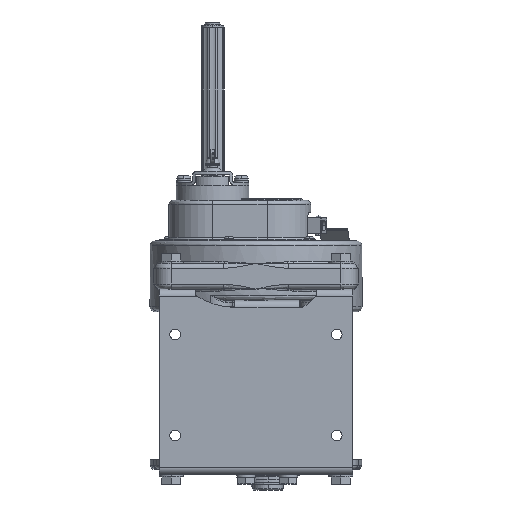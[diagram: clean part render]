
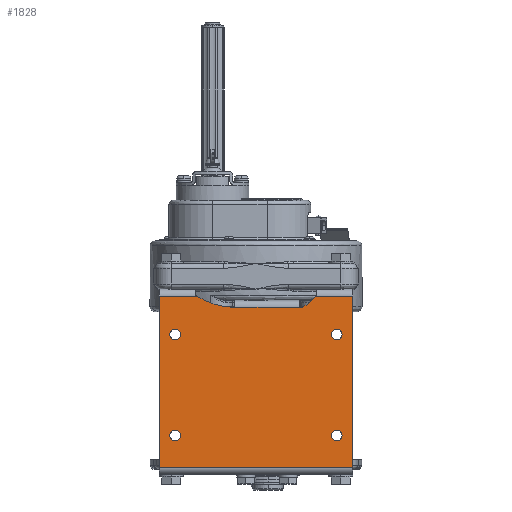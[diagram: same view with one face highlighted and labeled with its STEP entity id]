
A CAD part, front view. The second image highlights one B-rep face of the part: STEP entity #1828.
In plain terms, the highlighted planar face has unit normal (0, -1, 0).
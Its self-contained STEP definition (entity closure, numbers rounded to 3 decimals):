
#1828=ADVANCED_FACE('',(#19922,#19923,#19924,#19925,#19926),#19921,.T.);
#19921=PLANE('',#40189);
#19922=FACE_OUTER_BOUND('',#40190,.T.);
#19923=FACE_BOUND('',#40191,.T.);
#19924=FACE_BOUND('',#40192,.T.);
#19925=FACE_BOUND('',#40193,.T.);
#19926=FACE_BOUND('',#40194,.T.);
#40186=CARTESIAN_POINT('',(11.,-36.383,-212.1));
#40187=DIRECTION('',(0.,-1.,0.));
#40188=DIRECTION('',(0.,0.,1.));
#40189=AXIS2_PLACEMENT_3D('',#40186,#40187,#40188);
#40190=EDGE_LOOP('',(#56870,#56871,#56872,#56873,#56874,#56875,#56876,#56877,#56878,#56879));
#40191=EDGE_LOOP('',(#56880,#56881));
#40192=EDGE_LOOP('',(#56882,#56883));
#40193=EDGE_LOOP('',(#56884,#56885));
#40194=EDGE_LOOP('',(#56886,#56887));
#56870=ORIENTED_EDGE('',*,*,#65897,.T.);
#56871=ORIENTED_EDGE('',*,*,#65734,.T.);
#56872=ORIENTED_EDGE('',*,*,#65886,.T.);
#56873=ORIENTED_EDGE('',*,*,#65379,.T.);
#56874=ORIENTED_EDGE('',*,*,#65888,.T.);
#56875=ORIENTED_EDGE('',*,*,#65893,.T.);
#56876=ORIENTED_EDGE('',*,*,#65898,.T.);
#56877=ORIENTED_EDGE('',*,*,#65823,.F.);
#56878=ORIENTED_EDGE('',*,*,#65899,.F.);
#56879=ORIENTED_EDGE('',*,*,#65819,.T.);
#56880=ORIENTED_EDGE('',*,*,#65900,.F.);
#56881=ORIENTED_EDGE('',*,*,#65901,.F.);
#56882=ORIENTED_EDGE('',*,*,#65902,.F.);
#56883=ORIENTED_EDGE('',*,*,#65903,.F.);
#56884=ORIENTED_EDGE('',*,*,#65904,.F.);
#56885=ORIENTED_EDGE('',*,*,#65905,.F.);
#56886=ORIENTED_EDGE('',*,*,#65906,.F.);
#56887=ORIENTED_EDGE('',*,*,#65907,.F.);
#65379=EDGE_CURVE('',#96872,#96914,#96921,.T.);
#65734=EDGE_CURVE('',#99297,#99290,#99298,.T.);
#65819=EDGE_CURVE('',#99853,#99846,#99854,.T.);
#65823=EDGE_CURVE('',#99872,#99879,#99880,.T.);
#65886=EDGE_CURVE('',#99290,#96872,#100291,.T.);
#65888=EDGE_CURVE('',#96914,#100298,#100305,.T.);
#65893=EDGE_CURVE('',#100298,#100331,#100338,.T.);
#65897=EDGE_CURVE('',#99846,#99297,#100363,.T.);
#65898=EDGE_CURVE('',#100331,#99879,#100369,.T.);
#65899=EDGE_CURVE('',#99853,#99872,#100375,.T.);
#65900=EDGE_CURVE('',#100381,#100382,#100383,.T.);
#65901=EDGE_CURVE('',#100382,#100381,#100389,.T.);
#65902=EDGE_CURVE('',#100395,#100396,#100397,.T.);
#65903=EDGE_CURVE('',#100396,#100395,#100403,.T.);
#65904=EDGE_CURVE('',#100409,#100410,#100411,.T.);
#65905=EDGE_CURVE('',#100410,#100409,#100417,.T.);
#65906=EDGE_CURVE('',#100423,#100424,#100425,.T.);
#65907=EDGE_CURVE('',#100424,#100423,#100431,.T.);
#96872=VERTEX_POINT('',#129394);
#96914=VERTEX_POINT('',#129433);
#96921=LINE('',#129450,#129451);
#99290=VERTEX_POINT('',#131616);
#99297=VERTEX_POINT('',#131620);
#99298=CIRCLE('',#131624,30.);
#99846=VERTEX_POINT('',#131954);
#99853=VERTEX_POINT('',#131959);
#99854=LINE('',#131960,#131961);
#99872=VERTEX_POINT('',#131970);
#99879=VERTEX_POINT('',#131975);
#99880=LINE('',#131976,#131977);
#100291=CIRCLE('',#132246,2.);
#100298=VERTEX_POINT('',#132248);
#100305=CIRCLE('',#132255,2.);
#100331=VERTEX_POINT('',#132285);
#100338=CIRCLE('',#132293,70.);
#100363=LINE('',#132306,#132307);
#100369=LINE('',#132309,#132310);
#100375=LINE('',#132312,#132313);
#100381=VERTEX_POINT('',#132315);
#100382=VERTEX_POINT('',#132316);
#100383=CIRCLE('',#132320,5.25);
#100389=CIRCLE('',#132324,5.25);
#100395=VERTEX_POINT('',#132325);
#100396=VERTEX_POINT('',#132326);
#100397=CIRCLE('',#132330,5.25);
#100403=CIRCLE('',#132334,5.25);
#100409=VERTEX_POINT('',#132335);
#100410=VERTEX_POINT('',#132336);
#100411=CIRCLE('',#132340,5.25);
#100417=CIRCLE('',#132344,5.25);
#100423=VERTEX_POINT('',#132345);
#100424=VERTEX_POINT('',#132346);
#100425=CIRCLE('',#132350,5.25);
#100431=CIRCLE('',#132354,5.25);
#129394=CARTESIAN_POINT('',(-50.,-36.383,-43.4));
#129433=CARTESIAN_POINT('',(-118.,-36.383,-43.4));
#129450=CARTESIAN_POINT('',(-50.,-36.383,-43.4));
#129451=VECTOR('',#129452,68.);
#129452=DIRECTION('',(-1.,0.,0.));
#131616=CARTESIAN_POINT('',(-49.234,-36.383,-43.247));
#131620=CARTESIAN_POINT('',(-35.917,-36.383,-32.4));
#131621=CARTESIAN_POINT('',(-60.73,-36.383,-15.537));
#131622=DIRECTION('',(0.,1.,0.));
#131623=DIRECTION('',(0.,0.,-1.));
#131624=AXIS2_PLACEMENT_3D('',#131621,#131622,#131623);
#131954=CARTESIAN_POINT('',(1.,-36.383,-32.4));
#131959=CARTESIAN_POINT('',(1.,-36.383,-202.1));
#131960=CARTESIAN_POINT('',(1.,-36.383,-202.1));
#131961=VECTOR('',#131962,169.7);
#131962=DIRECTION('',(0.,0.,1.));
#131970=CARTESIAN_POINT('',(-191.,-36.383,-202.1));
#131975=CARTESIAN_POINT('',(-191.,-36.383,-32.4));
#131976=CARTESIAN_POINT('',(-191.,-36.383,-202.1));
#131977=VECTOR('',#131978,169.7);
#131978=DIRECTION('',(0.,0.,1.));
#132243=CARTESIAN_POINT('',(-50.,-36.383,-41.4));
#132244=DIRECTION('',(0.,1.,0.));
#132245=DIRECTION('',(0.,0.,-1.));
#132246=AXIS2_PLACEMENT_3D('',#132243,#132244,#132245);
#132248=CARTESIAN_POINT('',(-118.063,-36.383,-43.399));
#132252=CARTESIAN_POINT('',(-118.,-36.383,-41.4));
#132253=DIRECTION('',(0.,1.,0.));
#132254=DIRECTION('',(0.,0.,-1.));
#132255=AXIS2_PLACEMENT_3D('',#132252,#132253,#132254);
#132285=CARTESIAN_POINT('',(-153.59,-36.383,-32.4));
#132290=CARTESIAN_POINT('',(-115.868,-36.383,26.567));
#132291=DIRECTION('',(0.,1.,0.));
#132292=DIRECTION('',(0.,0.,-1.));
#132293=AXIS2_PLACEMENT_3D('',#132290,#132291,#132292);
#132306=CARTESIAN_POINT('',(1.,-36.383,-32.4));
#132307=VECTOR('',#132308,36.917);
#132308=DIRECTION('',(-1.,0.,0.));
#132309=CARTESIAN_POINT('',(-153.59,-36.383,-32.4));
#132310=VECTOR('',#132311,37.41);
#132311=DIRECTION('',(-1.,0.,0.));
#132312=CARTESIAN_POINT('',(1.,-36.383,-202.1));
#132313=VECTOR('',#132314,192.);
#132314=DIRECTION('',(-1.,0.,0.));
#132315=CARTESIAN_POINT('',(-15.,-36.383,-75.65));
#132316=CARTESIAN_POINT('',(-15.,-36.383,-65.15));
#132317=CARTESIAN_POINT('',(-15.,-36.383,-70.4));
#132318=DIRECTION('',(0.,-1.,0.));
#132319=DIRECTION('',(0.,0.,1.));
#132320=AXIS2_PLACEMENT_3D('',#132317,#132318,#132319);
#132321=CARTESIAN_POINT('',(-15.,-36.383,-70.4));
#132322=DIRECTION('',(0.,-1.,0.));
#132323=DIRECTION('',(0.,0.,1.));
#132324=AXIS2_PLACEMENT_3D('',#132321,#132322,#132323);
#132325=CARTESIAN_POINT('',(-175.,-36.383,-75.65));
#132326=CARTESIAN_POINT('',(-175.,-36.383,-65.15));
#132327=CARTESIAN_POINT('',(-175.,-36.383,-70.4));
#132328=DIRECTION('',(0.,-1.,0.));
#132329=DIRECTION('',(0.,0.,1.));
#132330=AXIS2_PLACEMENT_3D('',#132327,#132328,#132329);
#132331=CARTESIAN_POINT('',(-175.,-36.383,-70.4));
#132332=DIRECTION('',(0.,-1.,0.));
#132333=DIRECTION('',(0.,0.,1.));
#132334=AXIS2_PLACEMENT_3D('',#132331,#132332,#132333);
#132335=CARTESIAN_POINT('',(-175.,-36.383,-175.65));
#132336=CARTESIAN_POINT('',(-175.,-36.383,-165.15));
#132337=CARTESIAN_POINT('',(-175.,-36.383,-170.4));
#132338=DIRECTION('',(0.,-1.,0.));
#132339=DIRECTION('',(0.,0.,1.));
#132340=AXIS2_PLACEMENT_3D('',#132337,#132338,#132339);
#132341=CARTESIAN_POINT('',(-175.,-36.383,-170.4));
#132342=DIRECTION('',(0.,-1.,0.));
#132343=DIRECTION('',(0.,0.,1.));
#132344=AXIS2_PLACEMENT_3D('',#132341,#132342,#132343);
#132345=CARTESIAN_POINT('',(-15.,-36.383,-175.65));
#132346=CARTESIAN_POINT('',(-15.,-36.383,-165.15));
#132347=CARTESIAN_POINT('',(-15.,-36.383,-170.4));
#132348=DIRECTION('',(0.,-1.,0.));
#132349=DIRECTION('',(0.,0.,1.));
#132350=AXIS2_PLACEMENT_3D('',#132347,#132348,#132349);
#132351=CARTESIAN_POINT('',(-15.,-36.383,-170.4));
#132352=DIRECTION('',(0.,-1.,0.));
#132353=DIRECTION('',(0.,0.,1.));
#132354=AXIS2_PLACEMENT_3D('',#132351,#132352,#132353);
